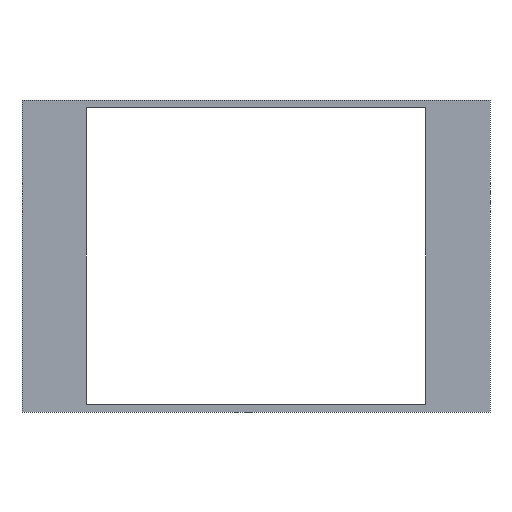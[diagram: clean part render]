
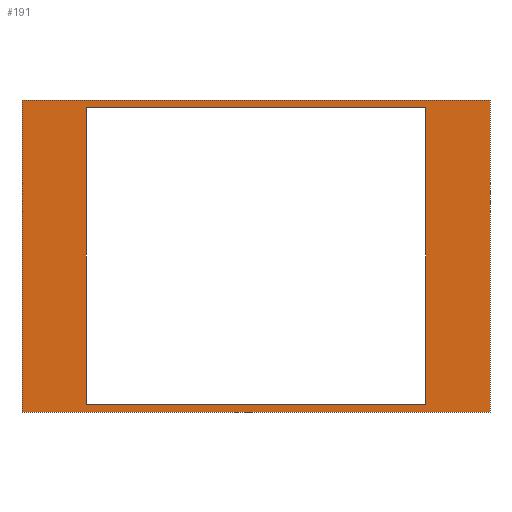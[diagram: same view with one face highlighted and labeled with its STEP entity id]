
A CAD part, front view. The second image highlights one B-rep face of the part: STEP entity #191.
In plain terms, the highlighted planar face has unit normal (0, -1, 0).
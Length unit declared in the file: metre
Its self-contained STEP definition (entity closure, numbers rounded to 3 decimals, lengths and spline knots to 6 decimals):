
#52=ORIENTED_EDGE('',*,*,#70,.T.);
#53=ORIENTED_EDGE('',*,*,#80,.T.);
#54=ORIENTED_EDGE('',*,*,#77,.F.);
#55=ORIENTED_EDGE('',*,*,#74,.F.);
#56=ORIENTED_EDGE('',*,*,#60,.T.);
#57=ORIENTED_EDGE('',*,*,#82,.T.);
#58=ORIENTED_EDGE('',*,*,#67,.F.);
#59=ORIENTED_EDGE('',*,*,#64,.F.);
#60=EDGE_CURVE('',#84,#85,#100,.T.);
#64=EDGE_CURVE('',#84,#88,#104,.T.);
#67=EDGE_CURVE('',#88,#90,#107,.T.);
#70=EDGE_CURVE('',#92,#93,#110,.T.);
#74=EDGE_CURVE('',#92,#96,#114,.T.);
#77=EDGE_CURVE('',#96,#98,#117,.T.);
#80=EDGE_CURVE('',#93,#98,#120,.T.);
#82=EDGE_CURVE('',#85,#90,#122,.T.);
#84=VERTEX_POINT('',#264);
#85=VERTEX_POINT('',#265);
#88=VERTEX_POINT('',#273);
#90=VERTEX_POINT('',#279);
#92=VERTEX_POINT('',#285);
#93=VERTEX_POINT('',#286);
#96=VERTEX_POINT('',#294);
#98=VERTEX_POINT('',#300);
#100=LINE('',#263,#124);
#104=LINE('',#272,#128);
#107=LINE('',#278,#131);
#110=LINE('',#284,#134);
#114=LINE('',#293,#138);
#117=LINE('',#299,#141);
#120=LINE('',#305,#144);
#122=LINE('',#308,#146);
#124=VECTOR('',#219,1.);
#128=VECTOR('',#225,1.);
#131=VECTOR('',#230,1.);
#134=VECTOR('',#235,1.);
#138=VECTOR('',#241,1.);
#141=VECTOR('',#246,1.);
#144=VECTOR('',#251,1.);
#146=VECTOR('',#255,1.);
#158=EDGE_LOOP('',(#52,#53,#54,#55));
#159=EDGE_LOOP('',(#56,#57,#58,#59));
#170=FACE_BOUND('',#158,.T.);
#171=FACE_BOUND('',#159,.T.);
#181=PLANE('',#214);
#191=ADVANCED_FACE('',(#170,#171),#181,.F.);
#214=AXIS2_PLACEMENT_3D('',#311,#259,#260);
#219=DIRECTION('',(-1.,0.,0.));
#225=DIRECTION('',(0.,0.,-1.));
#230=DIRECTION('',(-1.,0.,0.));
#235=DIRECTION('',(1.,0.,0.));
#241=DIRECTION('',(0.,0.,-1.));
#246=DIRECTION('',(1.,0.,0.));
#251=DIRECTION('',(0.,0.,-1.));
#255=DIRECTION('',(0.,0.,-1.));
#259=DIRECTION('',(0.,1.,0.));
#260=DIRECTION('',(-1.,0.,0.));
#263=CARTESIAN_POINT('',(0.,0.,0.02));
#264=CARTESIAN_POINT('',(0.03,0.,0.02));
#265=CARTESIAN_POINT('',(-0.03,0.,0.02));
#272=CARTESIAN_POINT('',(0.03,0.,0.));
#273=CARTESIAN_POINT('',(0.03,0.,-0.02));
#278=CARTESIAN_POINT('',(0.,0.,-0.02));
#279=CARTESIAN_POINT('',(-0.03,0.,-0.02));
#284=CARTESIAN_POINT('',(0.,0.,0.019));
#285=CARTESIAN_POINT('',(-0.02175,0.,0.019));
#286=CARTESIAN_POINT('',(0.02175,0.,0.019));
#293=CARTESIAN_POINT('',(-0.02175,0.,0.));
#294=CARTESIAN_POINT('',(-0.02175,0.,-0.019));
#299=CARTESIAN_POINT('',(0.,0.,-0.019));
#300=CARTESIAN_POINT('',(0.02175,0.,-0.019));
#305=CARTESIAN_POINT('',(0.02175,0.,0.));
#308=CARTESIAN_POINT('',(-0.03,0.,0.));
#311=CARTESIAN_POINT('',(0.,0.,0.));
